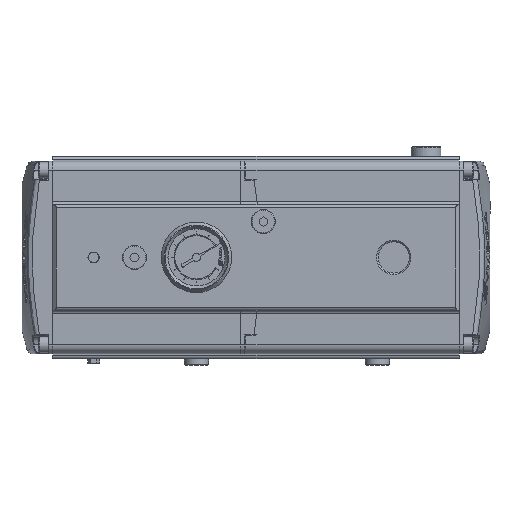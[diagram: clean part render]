
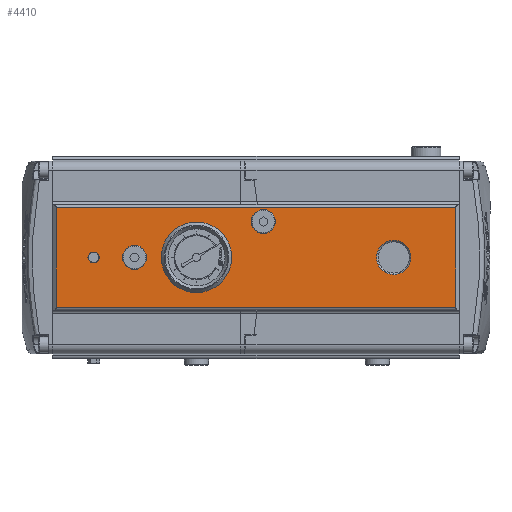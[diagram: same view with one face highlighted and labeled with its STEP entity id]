
A CAD part, top view. The second image highlights one B-rep face of the part: STEP entity #4410.
In plain terms, the highlighted planar face has unit normal (0, 0, 1).
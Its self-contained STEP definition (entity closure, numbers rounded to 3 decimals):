
#4410 = ADVANCED_FACE( '', ( #9166, #9167, #9168, #9169, #9170, #9171 ), #9172, .T. );
#9166 = FACE_BOUND( '', #15908, .T. );
#9167 = FACE_BOUND( '', #15909, .T. );
#9168 = FACE_BOUND( '', #15910, .T. );
#9169 = FACE_BOUND( '', #15911, .T. );
#9170 = FACE_BOUND( '', #15912, .T. );
#9171 = FACE_OUTER_BOUND( '', #15913, .T. );
#9172 = PLANE( '', #15914 );
#15908 = EDGE_LOOP( '', ( #29270 ) );
#15909 = EDGE_LOOP( '', ( #29271 ) );
#15910 = EDGE_LOOP( '', ( #29272 ) );
#15911 = EDGE_LOOP( '', ( #29273 ) );
#15912 = EDGE_LOOP( '', ( #29274 ) );
#15913 = EDGE_LOOP( '', ( #29275, #29276, #29277, #29278 ) );
#15914 = AXIS2_PLACEMENT_3D( '', #29279, #29280, #29281 );
#29270 = ORIENTED_EDGE( '', *, *, #34398, .T. );
#29271 = ORIENTED_EDGE( '', *, *, #35365, .T. );
#29272 = ORIENTED_EDGE( '', *, *, #33593, .T. );
#29273 = ORIENTED_EDGE( '', *, *, #34044, .T. );
#29274 = ORIENTED_EDGE( '', *, *, #31470, .T. );
#29275 = ORIENTED_EDGE( '', *, *, #34410, .F. );
#29276 = ORIENTED_EDGE( '', *, *, #34812, .T. );
#29277 = ORIENTED_EDGE( '', *, *, #35349, .T. );
#29278 = ORIENTED_EDGE( '', *, *, #33430, .T. );
#29279 = CARTESIAN_POINT( '', ( 124.5, -30.5, 65. ) );
#29280 = DIRECTION( '', ( 0., 0., 1. ) );
#29281 = DIRECTION( '', ( 0., -1., 0. ) );
#31470 = EDGE_CURVE( '', #37481, #37481, #37482, .F. );
#33430 = EDGE_CURVE( '', #40556, #40554, #40557, .T. );
#33593 = EDGE_CURVE( '', #40772, #40772, #40773, .F. );
#34044 = EDGE_CURVE( '', #41382, #41382, #41383, .F. );
#34398 = EDGE_CURVE( '', #41849, #41849, #41850, .F. );
#34410 = EDGE_CURVE( '', #41865, #40554, #41867, .T. );
#34812 = EDGE_CURVE( '', #41865, #42336, #42338, .T. );
#35349 = EDGE_CURVE( '', #42336, #40556, #42912, .T. );
#35365 = EDGE_CURVE( '', #42929, #42929, #42930, .F. );
#37481 = VERTEX_POINT( '', #46807 );
#37482 = CIRCLE( '', #46808, 4.9 );
#40554 = VERTEX_POINT( '', #52223 );
#40556 = VERTEX_POINT( '', #52225 );
#40557 = LINE( '', #52226, #52227 );
#40772 = VERTEX_POINT( '', #52680 );
#40773 = CIRCLE( '', #52681, 4.9 );
#41382 = VERTEX_POINT( '', #53920 );
#41383 = CIRCLE( '', #53921, 4.9 );
#41849 = VERTEX_POINT( '', #55353 );
#41850 = CIRCLE( '', #55354, 10.5 );
#41865 = VERTEX_POINT( '', #55374 );
#41867 = LINE( '', #55376, #55377 );
#42336 = VERTEX_POINT( '', #56208 );
#42338 = LINE( '', #56210, #56211 );
#42912 = LINE( '', #57470, #57471 );
#42929 = VERTEX_POINT( '', #57492 );
#42930 = CIRCLE( '', #57493, 2.5 );
#46807 = CARTESIAN_POINT( '', ( -36.5, -4.9, 65. ) );
#46808 = AXIS2_PLACEMENT_3D( '', #59016, #59017, #59018 );
#52223 = CARTESIAN_POINT( '', ( -122.5, -30.5, 65. ) );
#52225 = CARTESIAN_POINT( '', ( -122.5, 30.5, 65. ) );
#52226 = CARTESIAN_POINT( '', ( -122.5, -30.5, 65. ) );
#52227 = VECTOR( '', #61354, 1000. );
#52680 = CARTESIAN_POINT( '', ( 4.5, 17.1, 65. ) );
#52681 = AXIS2_PLACEMENT_3D( '', #61495, #61496, #61497 );
#53920 = CARTESIAN_POINT( '', ( -74.5, -4.9, 65. ) );
#53921 = AXIS2_PLACEMENT_3D( '', #61978, #61979, #61980 );
#55353 = CARTESIAN_POINT( '', ( 84.5, -10.5, 65. ) );
#55354 = AXIS2_PLACEMENT_3D( '', #62374, #62375, #62376 );
#55374 = CARTESIAN_POINT( '', ( 122.5, -30.5, 65. ) );
#55376 = CARTESIAN_POINT( '', ( 124.5, -30.5, 65. ) );
#55377 = VECTOR( '', #62391, 1000. );
#56208 = CARTESIAN_POINT( '', ( 122.5, 30.5, 65. ) );
#56210 = CARTESIAN_POINT( '', ( 122.5, 30.5, 65. ) );
#56211 = VECTOR( '', #62730, 1000. );
#57470 = CARTESIAN_POINT( '', ( 124.5, 30.5, 65. ) );
#57471 = VECTOR( '', #63073, 1000. );
#57492 = CARTESIAN_POINT( '', ( -99.5, -2.5, 65. ) );
#57493 = AXIS2_PLACEMENT_3D( '', #63081, #63082, #63083 );
#59016 = CARTESIAN_POINT( '', ( -36.5, 0., 65. ) );
#59017 = DIRECTION( '', ( 0., 0., 1. ) );
#59018 = DIRECTION( '', ( 0., -1., 0. ) );
#61354 = DIRECTION( '', ( 0., -1., 0. ) );
#61495 = CARTESIAN_POINT( '', ( 4.5, 22., 65. ) );
#61496 = DIRECTION( '', ( 0., 0., 1. ) );
#61497 = DIRECTION( '', ( 0., -1., 0. ) );
#61978 = CARTESIAN_POINT( '', ( -74.5, 0., 65. ) );
#61979 = DIRECTION( '', ( 0., 0., 1. ) );
#61980 = DIRECTION( '', ( 0., -1., 0. ) );
#62374 = CARTESIAN_POINT( '', ( 84.5, 0., 65. ) );
#62375 = DIRECTION( '', ( 0., 0., 1. ) );
#62376 = DIRECTION( '', ( 0., -1., 0. ) );
#62391 = DIRECTION( '', ( -1., 0., 0. ) );
#62730 = DIRECTION( '', ( 0., 1., 0. ) );
#63073 = DIRECTION( '', ( -1., 0., 0. ) );
#63081 = CARTESIAN_POINT( '', ( -99.5, 0., 65. ) );
#63082 = DIRECTION( '', ( 0., 0., 1. ) );
#63083 = DIRECTION( '', ( 0., -1., 0. ) );
